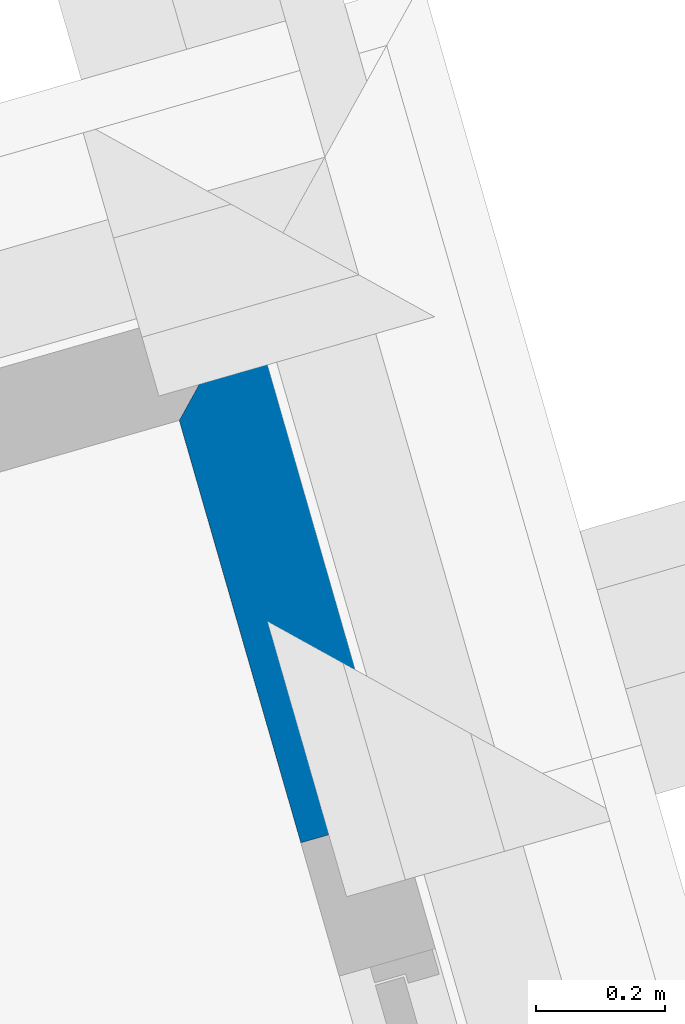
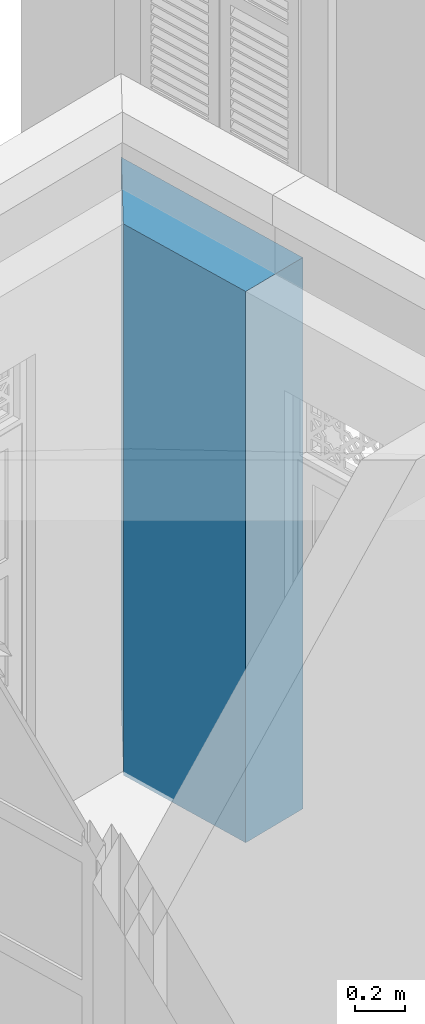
# One storey, part 8 of 22: 1 wall.
"""IFC4 building model written with IfcOpenShell, lengths in metres."""

import ifcopenshell
import ifcopenshell.guid

model = None  # the IFC model being written
_history = None  # IfcOwnerHistory: only IFC2X3 demands one
_inside = {}  # id of a spatial element -> (the spatial element, [elements in it])
_under = {}  # id of a project, library or spatial element -> (it, [spatial elements below it])
_declared = {}  # id of a project -> (the project, [libraries it declares])
_typed = {}  # id of a type object -> (the type object, [elements of that type])
_made_of = {}  # id of a material, layer set ... -> (it, [elements and type objects made of it])


def new_model(schema):
    """Start an empty IFC model of exactly this schema.

    Asked for "IFC4X3", IfcOpenShell would pick the latest addendum, in which some entities
    have other attributes; the version numbers below select the first issue.
    IFC2X3 requires an IfcOwnerHistory on every rooted entity: one is made here for all.
    """
    global model, _history
    if schema == "IFC4X3":
        model = ifcopenshell.file(schema_version=(4, 3, 0, 0))
    else:
        model = ifcopenshell.file(schema=schema)
    _inside.clear()
    _under.clear()
    _declared.clear()
    _typed.clear()
    _made_of.clear()
    _history = None
    if model.schema == "IFC2X3":
        org = make("IfcOrganization", Name="unknown")
        user = make(
            "IfcPersonAndOrganization",
            ThePerson=make("IfcPerson", FamilyName="unknown"),
            TheOrganization=org,
        )
        app = make(
            "IfcApplication",
            ApplicationDeveloper=org,
            Version="unknown",
            ApplicationFullName="unknown",
            ApplicationIdentifier="unknown",
        )
        _history = make(
            "IfcOwnerHistory",
            OwningUser=user,
            OwningApplication=app,
            ChangeAction="ADDED",
            CreationDate=0,
        )
    return model


def make(cls, **values):
    """One entity of the class cls with the attributes given. An attribute that is None is left unset."""
    return model.create_entity(
        cls, **{name: value for name, value in values.items() if value is not None}
    )


def rooted(cls, **values):
    """An entity with a GlobalId (a new one), such as an element, a storey or a relation."""
    return make(cls, GlobalId=ifcopenshell.guid.new(), OwnerHistory=_history, **values)


def si_unit(unit_type, name, prefix=None):
    """IfcSIUnit, for example si_unit("LENGTHUNIT", "METRE", prefix="MILLI")."""
    return make("IfcSIUnit", UnitType=unit_type, Prefix=prefix, Name=name)


def assignment(units):
    """IfcUnitAssignment: the units of a project."""
    return None if units is None else make("IfcUnitAssignment", Units=units)


def point(xyz):
    """IfcCartesianPoint."""
    return None if xyz is None else make("IfcCartesianPoint", Coordinates=xyz)


def direction(xyz):
    """IfcDirection."""
    return None if xyz is None else make("IfcDirection", DirectionRatios=xyz)


def frame(location, z_axis=None, x_axis=None):
    """IfcAxis2Placement3D, a coordinate frame: its origin and axes. An axis left out is left unset."""
    return make(
        "IfcAxis2Placement3D",
        Location=point(location),
        Axis=direction(z_axis),
        RefDirection=direction(x_axis),
    )


def origin_with_axes():
    """The frame at (0, 0, 0) with the z axis (0, 0, 1) and the x axis (1, 0, 0) written out."""
    return frame((0.0, 0.0, 0.0), z_axis=(0.0, 0.0, 1.0), x_axis=(1.0, 0.0, 0.0))


def place(relative_to, where):
    """IfcLocalPlacement: puts the frame where relative to a parent placement (None: the world)."""
    return make(
        "IfcLocalPlacement", PlacementRelTo=relative_to, RelativePlacement=where
    )


def context(
    kind, dimensions, precision=None, world=None, true_north=None, identifier=None
):
    """IfcGeometricRepresentationContext, for example the 3D "Model" context."""
    return make(
        "IfcGeometricRepresentationContext",
        ContextIdentifier=identifier,
        ContextType=kind,
        CoordinateSpaceDimension=dimensions,
        Precision=precision,
        WorldCoordinateSystem=world,
        TrueNorth=true_north,
    )


def subcontext(parent, identifier, kind, view, scale=None):
    """IfcGeometricRepresentationSubContext, for example "Body" below "Model"."""
    return make(
        "IfcGeometricRepresentationSubContext",
        ContextIdentifier=identifier,
        ContextType=kind,
        ParentContext=parent,
        TargetScale=scale,
        TargetView=view,
    )


def project(units=None, contexts=None):
    """IfcProject with its units and contexts."""
    return rooted(
        "IfcProject",
        Name="project",
        RepresentationContexts=contexts,
        UnitsInContext=assignment(units),
    )


def spatial(cls, under=None, at=None, **own):
    """A site, building, storey or space (cls), placed at a placement, below another one or the project."""
    s = rooted(cls, ObjectPlacement=at, **own)
    if under is not None:
        _under.setdefault(under.id(), (under, []))[1].append(s)
    return s


def polyline(points):
    """IfcPolyline through the points."""
    return make("IfcPolyline", Points=[point(p) for p in points])


def outline(outer, holes=None, kind="AREA"):
    """IfcArbitraryClosedProfileDef: a profile drawn as a closed curve; with holes, ...WithVoids."""
    if holes is None:
        return make("IfcArbitraryClosedProfileDef", ProfileType=kind, OuterCurve=outer)
    return make(
        "IfcArbitraryProfileDefWithVoids",
        ProfileType=kind,
        OuterCurve=outer,
        InnerCurves=holes,
    )


def extrude(swept, where, along, depth):
    """IfcExtrudedAreaSolid: the profile swept, set in the frame where, extruded along a direction by depth."""
    return make(
        "IfcExtrudedAreaSolid",
        SweptArea=swept,
        Position=where,
        ExtrudedDirection=direction(along),
        Depth=depth,
    )


def shape(context_of_items, identifier, shape_type, items):
    """IfcShapeRepresentation: the items that make up one representation, for example the "Body"."""
    return make(
        "IfcShapeRepresentation",
        ContextOfItems=context_of_items,
        RepresentationIdentifier=identifier,
        RepresentationType=shape_type,
        Items=items,
    )


def material(Name=None, Category=None):
    """IfcMaterial."""
    return make("IfcMaterial", Name=Name, Category=Category)


def layer(
    of_material, thickness, ventilated=None, Name=None, Category=None, Priority=None
):
    """IfcMaterialLayer: one layer of a wall or slab, of a material (None: an air gap)."""
    return make(
        "IfcMaterialLayer",
        Material=of_material,
        LayerThickness=thickness,
        IsVentilated=ventilated,
        Name=Name,
        Category=Category,
        Priority=Priority,
    )


def layer_set(layers, Name=None):
    """IfcMaterialLayerSet."""
    return make("IfcMaterialLayerSet", MaterialLayers=layers, LayerSetName=Name)


def layer_usage(for_layer_set, set_direction, sense, offset, extent=None):
    """IfcMaterialLayerSetUsage: how a layer set lies in its element."""
    return make(
        "IfcMaterialLayerSetUsage",
        ForLayerSet=for_layer_set,
        LayerSetDirection=set_direction,
        DirectionSense=sense,
        OffsetFromReferenceLine=offset,
        ReferenceExtent=extent,
    )


def made_of(thing, what):
    """Note that an element or type object is made of a material, layer set ...; save() writes the relation."""
    if what is not None:
        _made_of.setdefault(what.id(), (what, []))[1].append(thing)
    return thing


def type_object(cls, material=None, **own):
    """A type object (cls), such as IfcWallType, which elements share."""
    return made_of(rooted(cls, **own), material)


def element(
    cls,
    number,
    at=None,
    inside=None,
    cuts=None,
    type_object=None,
    material=None,
    context=None,
    identifier="Body",
    shape_type=None,
    held_by="IfcProductDefinitionShape",
    body=None,
    shapes=None,
    **own,
):
    """One element of the class cls, such as IfcWall. Its Tag is "e" and its number.

    at: its placement. inside: the storey or other place that contains it. cuts: it is an
    opening in that element (IfcRelVoidsElement). A single representation is given by context,
    identifier, shape_type and body (its items); several are given by shapes. held_by: the class
    of the entity that holds the representations. save() writes the other relations.
    """
    e = rooted(cls, Tag="e%d" % number, ObjectPlacement=at, **own)
    if body is not None:
        shapes = [shape(context, identifier, shape_type, body)]
    if shapes is not None:
        e.Representation = make(held_by, Representations=shapes)
    if inside is not None:
        _inside.setdefault(inside.id(), (inside, []))[1].append(e)
    if cuts is not None:
        rooted(
            "IfcRelVoidsElement", RelatingBuildingElement=cuts, RelatedOpeningElement=e
        )
    if type_object is not None:
        _typed.setdefault(type_object.id(), (type_object, []))[1].append(e)
    return made_of(e, material)


def aggregate(whole, parts):
    """IfcRelAggregates: a whole, such as a stair, and the parts it consists of."""
    return rooted("IfcRelAggregates", RelatingObject=whole, RelatedObjects=parts)


def save(model, path):
    """Write the relations noted so far, then the file.

    IfcRelAggregates (storeys below a building ...), IfcRelContainedInSpatialStructure (elements
    in a storey), IfcRelDefinesByType, IfcRelAssociatesMaterial and IfcRelDeclares: one each for
    every whole, place, type object, material and project.
    """
    for whole, parts in _under.values():
        aggregate(whole, parts)
    for where, things in _inside.values():
        rooted(
            "IfcRelContainedInSpatialStructure",
            RelatedElements=things,
            RelatingStructure=where,
        )
    for kind, things in _typed.values():
        rooted("IfcRelDefinesByType", RelatedObjects=things, RelatingType=kind)
    for what, things in _made_of.values():
        rooted("IfcRelAssociatesMaterial", RelatedObjects=things, RelatingMaterial=what)
    for by, libraries in _declared.values():
        rooted("IfcRelDeclares", RelatingContext=by, RelatedDefinitions=libraries)
    model.write(path)


model = new_model("IFC4")

# Units and contexts
model_context = context("Model", 3, world=origin_with_axes())
body_context = subcontext(model_context, "Body", "Model", "MODEL_VIEW")
ifc_project = project(units=[si_unit("PLANEANGLEUNIT", "RADIAN"), si_unit("MASSUNIT", "GRAM", prefix="KILO"), si_unit("FORCEUNIT", "NEWTON", prefix="KILO"), si_unit("LENGTHUNIT", "METRE"), si_unit("AREAUNIT", "SQUARE_METRE"), si_unit("VOLUMEUNIT", "CUBIC_METRE")], contexts=[model_context, model_context])

# Site, building, storey
site_placement = place(None, origin_with_axes())
site = spatial("IfcSite", under=ifc_project, at=site_placement, Name="Site plot-9", CompositionType="ELEMENT")
building_placement = place(None, origin_with_axes())
building = spatial("IfcBuilding", under=site, at=building_placement, Name="Building plot-9", CompositionType="ELEMENT")
storey_placement = place(None, frame((0.0, 0.0, 2.85), z_axis=(0.0, 0.0, 1.0), x_axis=(1.0, 0.0, 0.0)))
storey = spatial("IfcBuildingStorey", under=building, at=storey_placement, Name="plot-9 1", CompositionType="ELEMENT", Elevation=2.85)

# Wall
ifc_material = material(Name="Masonry")
ifc_layer = layer(ifc_material, 0.33, ventilated=False)
ifc_layer_set = layer_set([ifc_layer], Name="exterior_0.08_0.25")
ifc_layer_usage = layer_usage(ifc_layer_set, "AXIS2", "POSITIVE", -0.25)
wall_type = type_object("IfcWallType", Name="exterior_0.08_0.25", PredefinedType="SOLIDWALL", material=ifc_layer_set)
wall_placement = place(storey_placement, frame((-17.0911735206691, -2.13319942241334, 0.0), z_axis=(0.0, 0.0, 1.0), x_axis=(-0.276523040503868, 0.961007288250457, 0.0)))
element("IfcWall", 1, at=wall_placement, inside=storey, type_object=wall_type, material=ifc_layer_usage, Name="exterior", context=body_context, shape_type="SweptSolid", body=[
    extrude(outline(polyline([(8.67351996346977e-15, 0.0799999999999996), (-2.75182229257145e-14, -0.249999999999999), (1.01197310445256, -0.249999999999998), (0.681973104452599, 0.0799999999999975), (8.67351996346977e-15, 0.0799999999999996)])), origin_with_axes(), (0.0, 0.0, 1.0), 2.7),
])

save(model, "model.ifc")
